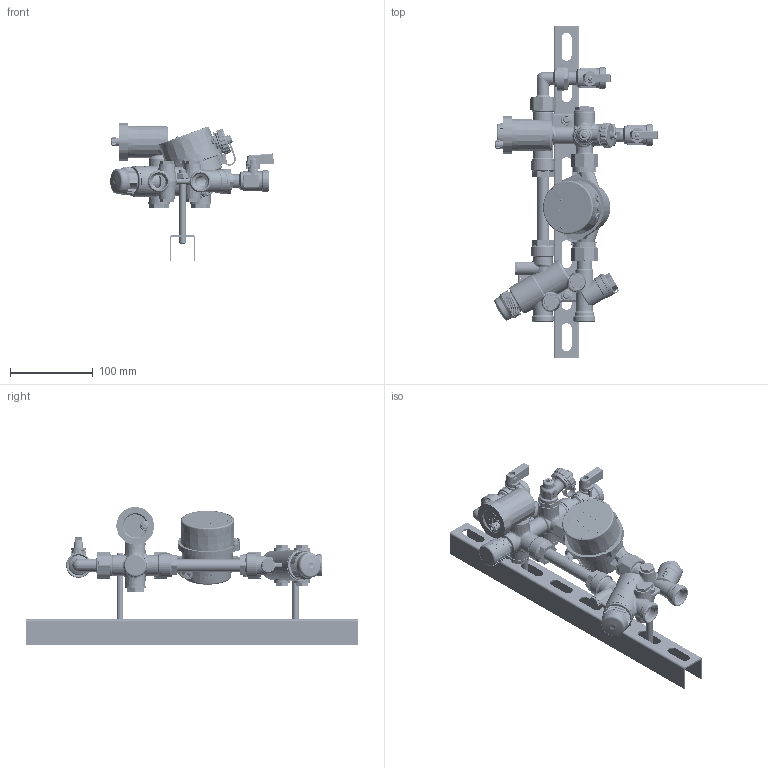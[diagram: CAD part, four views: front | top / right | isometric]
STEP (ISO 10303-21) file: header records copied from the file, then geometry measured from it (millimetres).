
FILE_DESCRIPTION(('STEP AP242'), '1');
FILE_NAME('覆.494726.034.000 捘 - VT.LB.HX.A0', '', ('UNSPECIFIED'), ('UNSPECIFIED'), 'C3D Converter', 'C3D Toolkit', '');
FILE_SCHEMA(('AP242_MANAGED_MODEL_BASED_3D_ENGINEERING_MIM_LF { 1 0 10303 442 1 1 4 }'));
Length unit declared in the file: millimetre
Products named in the file (140): ВР.494726.034.000-01; ВР.494726.012.001 СБ; ВР.494726.002.001.002 СБ; ВР.731371.001; ВР.725140.002; ВР.753125.023; ВР.758421.046; ВР.753612.008; ВР.305319.007.000 СБ; ВР.753125.011; ВР.305319.008.000 СБ; ВР.753125.012; ВР.494726.012.001.001 СБ; ВР.731378.002; ВР.731378.002П; ВР.305319.003.000 СБ; ВР.752513.005; ВР.493619.002.000 СБ; ВР.753191.001; ВР.713161.001; ВР.712221.001; ВР.493619.002.001 СБ; ВР.753157.001; ВР.493619.002.002 СБ; ВР.716623.001; ВР.753512.018; ВР.494726.002.005 СБ; ВР.713791.001; ВР.407223.001.000 СБ; ВР.407223.001.002 СБ; ВР.731464.002; ВР.753182.016; ВР.714411.001; ВР.715113.003; ВР.407223.001.002.002 СБ; ВР.753192.014; ВР.715113.002; ВР.711141.021; ВР.713121.002; ВР.711141.022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
Assembly tree (168 placements, depth 7):
  ВР.494726.034.000-01
    ВР.494726.012.001 СБ
      ВР.494726.002.001.002 СБ
        ВР.731371.001
        ВР.725140.002
        (unnamed)
          ВР.753125.023
          (unnamed)
        ВР.758421.046
        ВР.753612.008
        ВР.305319.007.000 СБ
          ВР.753125.011
          (unnamed)
        ВР.305319.008.000 СБ  x2
          ВР.753125.012
          (unnamed)
      ВР.494726.012.001.001 СБ
        ВР.731378.002
          ВР.731378.002П
        ВР.758421.046
        ВР.753612.008
        ВР.305319.003.000 СБ
          ВР.752513.005
          (unnamed)
        ВР.493619.002.000 СБ
          ВР.753191.001
          ВР.713161.001
          ВР.712221.001
          (unnamed)
          ВР.493619.002.001 СБ
            ВР.753157.001
            (unnamed)
            (unnamed)
            (unnamed)
          ВР.493619.002.002 СБ
            ВР.716623.001
            (unnamed)
          ВР.753512.018
        ВР.494726.002.005 СБ  x2
          ВР.713791.001
          (unnamed)
      ВР.407223.001.000 СБ
        ВР.407223.001.002 СБ
          ВР.731464.002
          ВР.753182.016
          ВР.714411.001
            ВР.715113.003
          ВР.407223.001.002.002 СБ
            ВР.753192.014
              ВР.715113.002
            ВР.711141.021
            ВР.713121.002
          ВР.711141.022
          ВР.407223.001.002.001 СБ
            ВР.753181.009
            ВР.713141.002
          (unnamed)
          ВР.711141.023
          ВР.711242.002
          ВР.725113.002
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Bounding box: 197.12 x 400 x 166.76 mm (x, y, z)
Volume: 571761.5 mm3; surface area: 466923.5 mm2
Topology: 151 solids, 154 shells, 8421 faces, 22066 edges, 14361 vertices
Faces by surface type: plane 4086, cylinder 1642, extrusion 976, cone 734, bspline 552, torus 406, sphere 25
Full cylindrical faces by diameter (mm): 0.4 x4, 0.6 x23, 0.7 x2, 0.753 x1, 0.8 x12, 1.117 x1, 1.2 x5, 1.3 x1, 1.5 x5, 1.6 x2, 1.7 x1, 1.9 x1, 2 x5, 2.1 x4, 2.2 x5, 2.3 x2, 2.5 x9, 2.6 x1, 2.7 x2, 2.8 x1, 3 x8, 3.242 x2, 3.4 x4, 3.6 x3, 3.8 x1, 4 x7, 4.2 x1, 4.3 x1, 4.5 x3, 4.7 x1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
Entity records: 344222 total; most frequent: CARTESIAN_POINT 170065, ORIENTED_EDGE 34880, DIRECTION 29442, EDGE_CURVE 17445, VERTEX_POINT 11825, AXIS2_PLACEMENT_3D 10037, VECTOR 9368, EDGE_LOOP 8756
